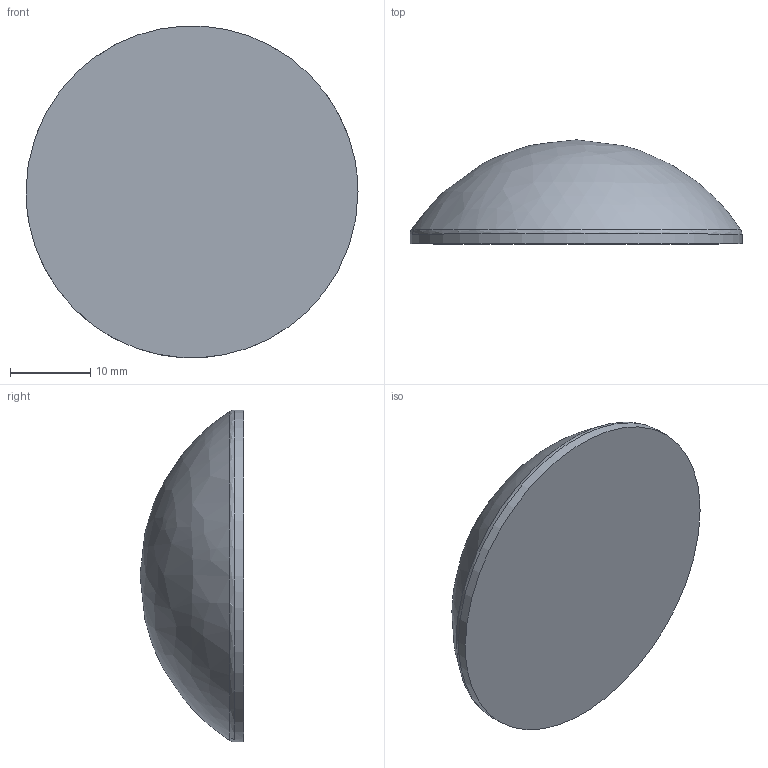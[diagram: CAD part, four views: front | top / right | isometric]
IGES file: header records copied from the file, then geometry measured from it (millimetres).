
Global section: file name: DR_PR22-42B; native system: Autodesk Inventor 2015; preprocessor: unknown; author: Administrator; date: 20170925.154044; units: millimetre
Bounding box: 41.5 x 13 x 41.47 mm (x, y, z)
Volume: 10602.6 mm3; surface area: 3315 mm2
Topology: 1 solids, 1 shells, 4 faces, 9 edges, 7 vertices
Faces by surface type: bspline 4
